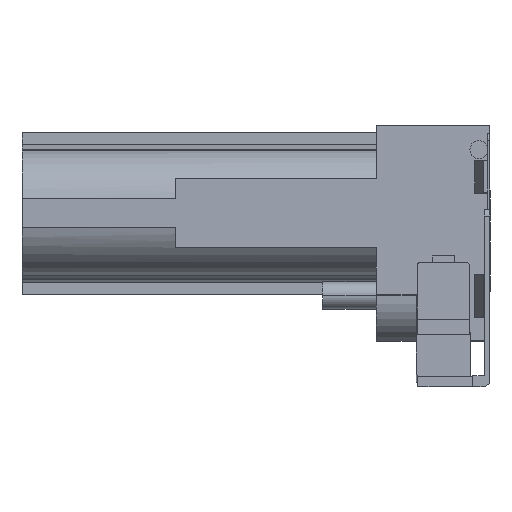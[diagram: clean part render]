
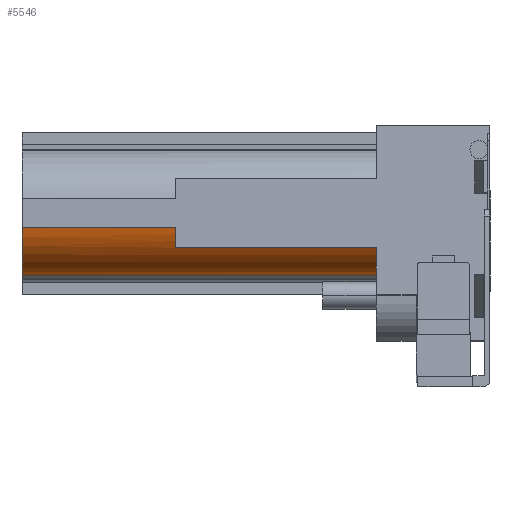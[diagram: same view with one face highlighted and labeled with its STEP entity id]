
A CAD part, front view. The second image highlights one B-rep face of the part: STEP entity #5546.
In plain terms, the highlighted cylindrical face has radius 23 mm (diameter 46 mm), a partial arc.
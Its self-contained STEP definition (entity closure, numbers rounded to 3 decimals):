
#1002 = FACE_OUTER_BOUND ( 'NONE', #4413, .T. ) ;
#1003 = CYLINDRICAL_SURFACE ( 'NONE', #1172, 23. ) ;
#1172 = AXIS2_PLACEMENT_3D ( 'NONE', #2675, #2676, #2677 ) ;
#2675 = CARTESIAN_POINT ( 'NONE',  ( -41.25, 493.475, 13.334 ) ) ;
#2676 = DIRECTION ( 'NONE',  ( -1., 0., 0. ) ) ;
#2677 = DIRECTION ( 'NONE',  ( 0., -1., 0. ) ) ;
#2801 = CARTESIAN_POINT ( 'NONE',  ( -169.95, 488.255, -9.066 ) ) ;
#2845 = CARTESIAN_POINT ( 'NONE',  ( -114.25, 471.034, 8.29 ) ) ;
#2886 = CARTESIAN_POINT ( 'NONE',  ( -41.25, 474.103, 0.934 ) ) ;
#2899 = CARTESIAN_POINT ( 'NONE',  ( -169.95, 471.034, 8.29 ) ) ;
#2993 = CARTESIAN_POINT ( 'NONE',  ( -114.25, 474.103, 0.934 ) ) ;
#3051 = CARTESIAN_POINT ( 'NONE',  ( -41.25, 488.255, -9.066 ) ) ;
#3172 = EDGE_CURVE ( 'NONE', #6470, #6220, #5055, .T. ) ;
#3173 = EDGE_CURVE ( 'NONE', #6318, #6220, #5058, .T. ) ;
#3174 = EDGE_CURVE ( 'NONE', #6264, #6318, #5057, .T. ) ;
#3175 = EDGE_CURVE ( 'NONE', #6264, #6412, #5061, .T. ) ;
#3176 = EDGE_CURVE ( 'NONE', #6412, #6305, #5060, .T. ) ;
#3187 = EDGE_CURVE ( 'NONE', #6305, #6470, #5082, .T. ) ;
#3682 = AXIS2_PLACEMENT_3D ( 'NONE', #5929, #5926, #5921 ) ;
#3683 = AXIS2_PLACEMENT_3D ( 'NONE', #5910, #5909, #5907 ) ;
#3686 = AXIS2_PLACEMENT_3D ( 'NONE', #6003, #6002, #6000 ) ;
#4413 = EDGE_LOOP ( 'NONE', ( #5829, #5830, #5831, #5832, #5833, #5834 ) ) ;
#5055 = LINE ( 'NONE', #5941, #5056 ) ;
#5056 = VECTOR ( 'NONE', #5930, 1000. ) ;
#5057 = LINE ( 'NONE', #5915, #5059 ) ;
#5058 = CIRCLE ( 'NONE', #3682, 23. ) ;
#5059 = VECTOR ( 'NONE', #5914, 1000. ) ;
#5060 = LINE ( 'NONE', #5904, #5062 ) ;
#5061 = CIRCLE ( 'NONE', #3683, 23. ) ;
#5062 = VECTOR ( 'NONE', #5902, 1000. ) ;
#5082 = CIRCLE ( 'NONE', #3686, 23. ) ;
#5546 = ADVANCED_FACE ( 'NONE', ( #1002 ), #1003, .T. ) ;
#5829 = ORIENTED_EDGE ( 'NONE', *, *, #3176, .F. ) ;
#5830 = ORIENTED_EDGE ( 'NONE', *, *, #3175, .F. ) ;
#5831 = ORIENTED_EDGE ( 'NONE', *, *, #3174, .T. ) ;
#5832 = ORIENTED_EDGE ( 'NONE', *, *, #3173, .T. ) ;
#5833 = ORIENTED_EDGE ( 'NONE', *, *, #3172, .F. ) ;
#5834 = ORIENTED_EDGE ( 'NONE', *, *, #3187, .F. ) ;
#5902 = DIRECTION ( 'NONE',  ( 1., 0., 0. ) ) ;
#5904 = CARTESIAN_POINT ( 'NONE',  ( -114.25, 474.103, 0.934 ) ) ;
#5907 = DIRECTION ( 'NONE',  ( 0., -1., 0. ) ) ;
#5909 = DIRECTION ( 'NONE',  ( 1., 0., 0. ) ) ;
#5910 = CARTESIAN_POINT ( 'NONE',  ( -114.25, 493.475, 13.334 ) ) ;
#5914 = DIRECTION ( 'NONE',  ( -1., 0., 0. ) ) ;
#5915 = CARTESIAN_POINT ( 'NONE',  ( -41.25, 471.034, 8.29 ) ) ;
#5921 = DIRECTION ( 'NONE',  ( 0., -1., 0. ) ) ;
#5926 = DIRECTION ( 'NONE',  ( 1., 0., 0. ) ) ;
#5929 = CARTESIAN_POINT ( 'NONE',  ( -169.95, 493.475, 13.334 ) ) ;
#5930 = DIRECTION ( 'NONE',  ( -1., 0., 0. ) ) ;
#5941 = CARTESIAN_POINT ( 'NONE',  ( -41.25, 488.255, -9.066 ) ) ;
#6000 = DIRECTION ( 'NONE',  ( 0., -1., 0. ) ) ;
#6002 = DIRECTION ( 'NONE',  ( 1., 0., 0. ) ) ;
#6003 = CARTESIAN_POINT ( 'NONE',  ( -41.25, 493.475, 13.334 ) ) ;
#6220 = VERTEX_POINT ( 'NONE', #2801 ) ;
#6264 = VERTEX_POINT ( 'NONE', #2845 ) ;
#6305 = VERTEX_POINT ( 'NONE', #2886 ) ;
#6318 = VERTEX_POINT ( 'NONE', #2899 ) ;
#6412 = VERTEX_POINT ( 'NONE', #2993 ) ;
#6470 = VERTEX_POINT ( 'NONE', #3051 ) ;
